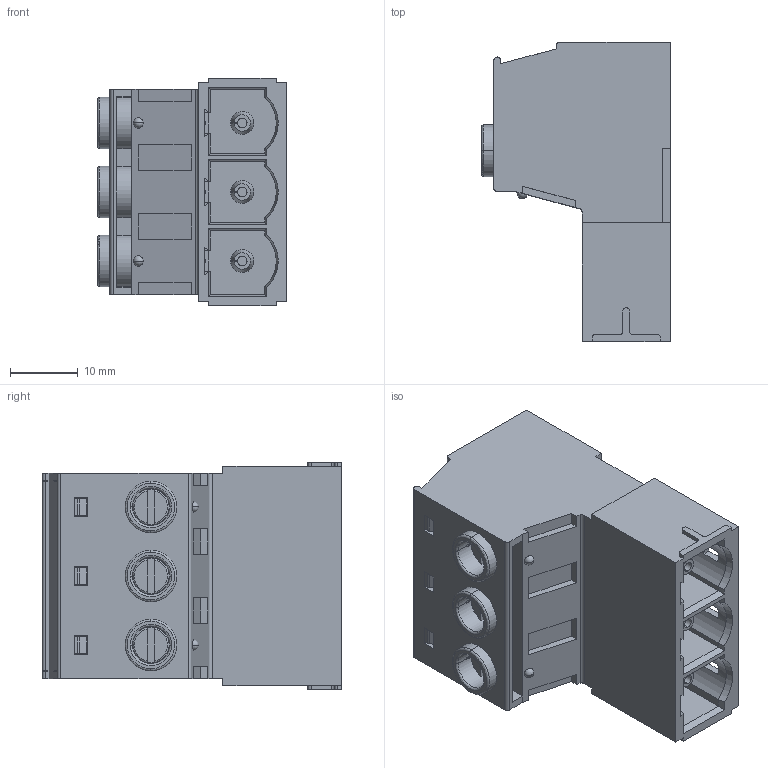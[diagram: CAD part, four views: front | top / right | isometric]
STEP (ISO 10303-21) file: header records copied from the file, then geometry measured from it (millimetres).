
FILE_DESCRIPTION((''),'2;1');
FILE_NAME('3','2019-05-23T',('zhenbing.lai'),(''),'CREO PARAMETRIC BY PTC INC, 2016260','CREO PARAMETRIC BY PTC INC, 2016260','');
FILE_SCHEMA(('CONFIG_CONTROL_DESIGN'));
Length unit declared in the file: millimetre
Products named in the file (1): 3
Bounding box: 27.8 x 44.1 x 33.52 mm (x, y, z)
Volume: 19864.5 mm3; surface area: 10716.8 mm2
Topology: 1 solids, 5 shells, 581 faces, 1682 edges, 1106 vertices
Faces by surface type: plane 368, cylinder 135, torus 33, cone 24, bspline 14, sphere 7
Entity records: 20571 total; most frequent: CARTESIAN_POINT 5197, ORIENTED_EDGE 3350, DIRECTION 3055, EDGE_CURVE 1675, VERTEX_POINT 1106, VECTOR 1091, LINE 1091, AXIS2_PLACEMENT_3D 982
